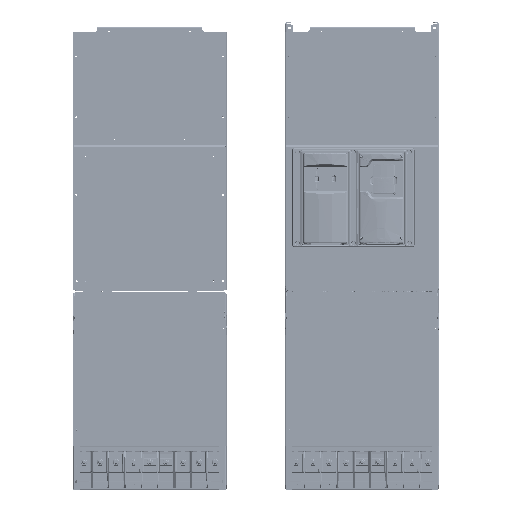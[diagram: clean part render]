
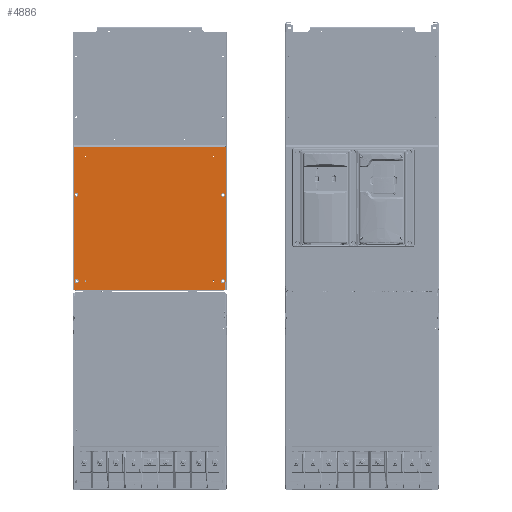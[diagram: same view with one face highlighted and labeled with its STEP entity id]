
A CAD part, top view. The second image highlights one B-rep face of the part: STEP entity #4886.
In plain terms, the highlighted planar face has unit normal (0, 0, 1).
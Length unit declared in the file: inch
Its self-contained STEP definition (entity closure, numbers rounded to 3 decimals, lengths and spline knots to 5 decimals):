
#4443=CARTESIAN_POINT('',(-9.68433,-33.8614,18.14312));
#4444=VERTEX_POINT('',#4443);
#4451=CARTESIAN_POINT('',(-9.76307,-33.78266,18.14312));
#4452=VERTEX_POINT('',#4451);
#4453=CARTESIAN_POINT('',(-9.68433,-33.8614,18.14312));
#4454=DIRECTION('',(-0.707,0.707,0.0));
#4455=VECTOR('',#4454,0.11136);
#4456=LINE('',#4453,#4455);
#4457=EDGE_CURVE('',#4444,#4452,#4456,.T.);
#4475=CARTESIAN_POINT('',(-9.76307,-16.30235,18.14312));
#4476=VERTEX_POINT('',#4475);
#4477=CARTESIAN_POINT('',(-9.76307,-16.30235,18.14312));
#4478=DIRECTION('',(0.0,-1.0,0.0));
#4479=VECTOR('',#4478,17.48031);
#4480=LINE('',#4477,#4479);
#4481=EDGE_CURVE('',#4476,#4452,#4480,.T.);
#4499=CARTESIAN_POINT('',(-9.64496,-16.18424,18.14312));
#4500=VERTEX_POINT('',#4499);
#4501=CARTESIAN_POINT('',(-9.64496,-16.30235,18.14312));
#4502=DIRECTION('',(0.0,0.0,-1.0));
#4503=DIRECTION('',(-1.0,0.,0.0));
#4504=AXIS2_PLACEMENT_3D('',#4501,#4502,#4503);
#4505=CIRCLE('',#4504,0.11811);
#4506=EDGE_CURVE('',#4476,#4500,#4505,.T.);
#4524=CARTESIAN_POINT('',(9.80385,-16.18424,18.14312));
#4525=VERTEX_POINT('',#4524);
#4526=CARTESIAN_POINT('',(9.80385,-16.18424,18.14312));
#4527=DIRECTION('',(-1.0,0.0,0.0));
#4528=VECTOR('',#4527,19.44882);
#4529=LINE('',#4526,#4528);
#4530=EDGE_CURVE('',#4525,#4500,#4529,.T.);
#4548=CARTESIAN_POINT('',(9.92196,-16.30235,18.14312));
#4549=VERTEX_POINT('',#4548);
#4550=CARTESIAN_POINT('',(9.80385,-16.30235,18.14312));
#4551=DIRECTION('',(0.0,0.0,-1.0));
#4552=DIRECTION('',(0.,1.0,0.0));
#4553=AXIS2_PLACEMENT_3D('',#4550,#4551,#4552);
#4554=CIRCLE('',#4553,0.11811);
#4555=EDGE_CURVE('',#4525,#4549,#4554,.T.);
#4573=CARTESIAN_POINT('',(9.92196,-33.70392,18.14312));
#4574=VERTEX_POINT('',#4573);
#4575=CARTESIAN_POINT('',(9.92196,-33.70392,18.14312));
#4576=DIRECTION('',(0.0,1.0,0.0));
#4577=VECTOR('',#4576,17.40157);
#4578=LINE('',#4575,#4577);
#4579=EDGE_CURVE('',#4574,#4549,#4578,.T.);
#4597=CARTESIAN_POINT('',(9.84322,-33.78266,18.14312));
#4598=VERTEX_POINT('',#4597);
#4599=CARTESIAN_POINT('',(9.92196,-33.70392,18.14312));
#4600=DIRECTION('',(-0.707,-0.707,0.0));
#4601=VECTOR('',#4600,0.11136);
#4602=LINE('',#4599,#4601);
#4603=EDGE_CURVE('',#4574,#4598,#4602,.T.);
#4621=CARTESIAN_POINT('',(9.84322,-34.60944,18.14312));
#4622=VERTEX_POINT('',#4621);
#4623=CARTESIAN_POINT('',(9.84322,-34.60944,18.14312));
#4624=DIRECTION('',(0.,1.0,0.0));
#4625=VECTOR('',#4624,0.82677);
#4626=LINE('',#4623,#4625);
#4627=EDGE_CURVE('',#4622,#4598,#4626,.T.);
#4645=CARTESIAN_POINT('',(9.72511,-34.72755,18.14312));
#4646=VERTEX_POINT('',#4645);
#4647=CARTESIAN_POINT('',(9.72511,-34.60944,18.14312));
#4648=DIRECTION('',(0.0,0.0,-1.0));
#4649=DIRECTION('',(1.0,0.,0.0));
#4650=AXIS2_PLACEMENT_3D('',#4647,#4648,#4649);
#4651=CIRCLE('',#4650,0.11811);
#4652=EDGE_CURVE('',#4622,#4646,#4651,.T.);
#4670=CARTESIAN_POINT('',(-9.56622,-34.72755,18.14312));
#4671=VERTEX_POINT('',#4670);
#4672=CARTESIAN_POINT('',(-9.56622,-34.72755,18.14312));
#4673=DIRECTION('',(1.0,0.0,0.0));
#4674=VECTOR('',#4673,19.29134);
#4675=LINE('',#4672,#4674);
#4676=EDGE_CURVE('',#4671,#4646,#4675,.T.);
#4694=CARTESIAN_POINT('',(-9.68433,-34.60944,18.14312));
#4695=VERTEX_POINT('',#4694);
#4696=CARTESIAN_POINT('',(-9.56622,-34.60944,18.14312));
#4697=DIRECTION('',(0.0,0.0,-1.0));
#4698=DIRECTION('',(0.,-1.0,0.0));
#4699=AXIS2_PLACEMENT_3D('',#4696,#4697,#4698);
#4700=CIRCLE('',#4699,0.11811);
#4701=EDGE_CURVE('',#4671,#4695,#4700,.T.);
#4719=CARTESIAN_POINT('',(-9.68433,-33.8614,18.14312));
#4720=DIRECTION('',(0.,-1.0,0.0));
#4721=VECTOR('',#4720,0.74803);
#4722=LINE('',#4719,#4721);
#4723=EDGE_CURVE('',#4444,#4695,#4722,.T.);
#4729=CARTESIAN_POINT('',(-9.76307,-34.72755,18.14312));
#4730=DIRECTION('',(0.0,0.0,1.0));
#4731=DIRECTION('',(1.0,0.0,0.0));
#4732=AXIS2_PLACEMENT_3D('',#4729,#4730,#4731);
#4733=PLANE('',#4732);
#4734=ORIENTED_EDGE('',*,*,#4530,.T.);
#4735=ORIENTED_EDGE('',*,*,#4506,.F.);
#4736=ORIENTED_EDGE('',*,*,#4481,.T.);
#4737=ORIENTED_EDGE('',*,*,#4457,.F.);
#4738=ORIENTED_EDGE('',*,*,#4723,.T.);
#4739=ORIENTED_EDGE('',*,*,#4701,.F.);
#4740=ORIENTED_EDGE('',*,*,#4676,.T.);
#4741=ORIENTED_EDGE('',*,*,#4652,.F.);
#4742=ORIENTED_EDGE('',*,*,#4627,.T.);
#4743=ORIENTED_EDGE('',*,*,#4603,.F.);
#4744=ORIENTED_EDGE('',*,*,#4579,.T.);
#4745=ORIENTED_EDGE('',*,*,#4555,.F.);
#4746=EDGE_LOOP('',(#4734,#4735,#4736,#4737,#4738,#4739,#4740,#4741,#4742,#4743,#4744,#4745));
#4747=FACE_OUTER_BOUND('',#4746,.T.);
#4748=CARTESIAN_POINT('',(8.42877,-17.40471,18.14312));
#4749=VERTEX_POINT('',#4748);
#4750=CARTESIAN_POINT('',(8.34019,-17.40471,18.14312));
#4751=DIRECTION('',(0.0,0.0,1.0));
#4752=DIRECTION('',(-1.0,0.0,0.0));
#4753=AXIS2_PLACEMENT_3D('',#4750,#4751,#4752);
#4754=CIRCLE('',#4753,0.08858);
#4755=EDGE_CURVE('',#4749,#4749,#4754,.T.);
#4756=ORIENTED_EDGE('',*,*,#4755,.F.);
#4757=EDGE_LOOP('',(#4756));
#4758=FACE_BOUND('',#4757,.T.);
#4759=CARTESIAN_POINT('',(8.42877,-33.54644,18.14312));
#4760=VERTEX_POINT('',#4759);
#4761=CARTESIAN_POINT('',(8.34019,-33.54644,18.14312));
#4762=DIRECTION('',(0.0,0.0,1.0));
#4763=DIRECTION('',(-1.0,0.0,0.0));
#4764=AXIS2_PLACEMENT_3D('',#4761,#4762,#4763);
#4765=CIRCLE('',#4764,0.08858);
#4766=EDGE_CURVE('',#4760,#4760,#4765,.T.);
#4767=ORIENTED_EDGE('',*,*,#4766,.F.);
#4768=EDGE_LOOP('',(#4767));
#4769=FACE_BOUND('',#4768,.T.);
#4770=CARTESIAN_POINT('',(9.80779,-22.37715,18.14312));
#4771=VERTEX_POINT('',#4770);
#4772=CARTESIAN_POINT('',(9.57157,-22.37715,18.14312));
#4773=DIRECTION('',(0.0,0.0,1.0));
#4774=DIRECTION('',(-1.0,0.0,0.0));
#4775=AXIS2_PLACEMENT_3D('',#4772,#4773,#4774);
#4776=CIRCLE('',#4775,0.23622);
#4777=EDGE_CURVE('',#4771,#4771,#4776,.T.);
#4778=ORIENTED_EDGE('',*,*,#4777,.F.);
#4779=EDGE_LOOP('',(#4778));
#4780=FACE_BOUND('',#4779,.T.);
#4781=CARTESIAN_POINT('',(-8.09969,-17.40471,18.14312));
#4782=VERTEX_POINT('',#4781);
#4783=CARTESIAN_POINT('',(-8.18827,-17.40471,18.14312));
#4784=DIRECTION('',(0.0,0.0,1.0));
#4785=DIRECTION('',(-1.0,0.0,0.0));
#4786=AXIS2_PLACEMENT_3D('',#4783,#4784,#4785);
#4787=CIRCLE('',#4786,0.08858);
#4788=EDGE_CURVE('',#4782,#4782,#4787,.T.);
#4789=ORIENTED_EDGE('',*,*,#4788,.F.);
#4790=EDGE_LOOP('',(#4789));
#4791=FACE_BOUND('',#4790,.T.);
#4792=CARTESIAN_POINT('',(-9.17646,-22.37715,18.14312));
#4793=VERTEX_POINT('',#4792);
#4794=CARTESIAN_POINT('',(-9.41268,-22.37715,18.14312));
#4795=DIRECTION('',(0.0,0.0,1.0));
#4796=DIRECTION('',(-1.0,0.0,0.0));
#4797=AXIS2_PLACEMENT_3D('',#4794,#4795,#4796);
#4798=CIRCLE('',#4797,0.23622);
#4799=EDGE_CURVE('',#4793,#4793,#4798,.T.);
#4800=ORIENTED_EDGE('',*,*,#4799,.F.);
#4801=EDGE_LOOP('',(#4800));
#4802=FACE_BOUND('',#4801,.T.);
#4803=CARTESIAN_POINT('',(-8.09969,-33.54644,18.14312));
#4804=VERTEX_POINT('',#4803);
#4805=CARTESIAN_POINT('',(-8.18827,-33.54644,18.14312));
#4806=DIRECTION('',(0.0,0.0,1.0));
#4807=DIRECTION('',(-1.0,0.0,0.0));
#4808=AXIS2_PLACEMENT_3D('',#4805,#4806,#4807);
#4809=CIRCLE('',#4808,0.08858);
#4810=EDGE_CURVE('',#4804,#4804,#4809,.T.);
#4811=ORIENTED_EDGE('',*,*,#4810,.F.);
#4812=EDGE_LOOP('',(#4811));
#4813=FACE_BOUND('',#4812,.T.);
#4814=CARTESIAN_POINT('',(-9.35363,-33.78266,18.14312));
#4815=VERTEX_POINT('',#4814);
#4816=CARTESIAN_POINT('',(-9.41268,-33.78266,18.14312));
#4817=VERTEX_POINT('',#4816);
#4818=CARTESIAN_POINT('',(-9.35363,-33.78266,18.14312));
#4819=DIRECTION('',(-1.0,0.0,0.0));
#4820=VECTOR('',#4819,0.05906);
#4821=LINE('',#4818,#4820);
#4822=EDGE_CURVE('',#4815,#4817,#4821,.T.);
#4823=ORIENTED_EDGE('',*,*,#4822,.T.);
#4824=CARTESIAN_POINT('',(-9.41268,-33.31022,18.14312));
#4825=VERTEX_POINT('',#4824);
#4826=CARTESIAN_POINT('',(-9.41268,-33.54644,18.14312));
#4827=DIRECTION('',(0.0,0.0,1.0));
#4828=DIRECTION('',(-1.0,0.0,0.0));
#4829=AXIS2_PLACEMENT_3D('',#4826,#4827,#4828);
#4830=CIRCLE('',#4829,0.23622);
#4831=EDGE_CURVE('',#4825,#4817,#4830,.T.);
#4832=ORIENTED_EDGE('',*,*,#4831,.F.);
#4833=CARTESIAN_POINT('',(-9.35363,-33.31022,18.14312));
#4834=VERTEX_POINT('',#4833);
#4835=CARTESIAN_POINT('',(-9.41268,-33.31022,18.14312));
#4836=DIRECTION('',(1.0,0.0,0.0));
#4837=VECTOR('',#4836,0.05906);
#4838=LINE('',#4835,#4837);
#4839=EDGE_CURVE('',#4825,#4834,#4838,.T.);
#4840=ORIENTED_EDGE('',*,*,#4839,.T.);
#4841=CARTESIAN_POINT('',(-9.35363,-33.54644,18.14312));
#4842=DIRECTION('',(0.0,0.0,1.0));
#4843=DIRECTION('',(1.0,0.0,0.0));
#4844=AXIS2_PLACEMENT_3D('',#4841,#4842,#4843);
#4845=CIRCLE('',#4844,0.23622);
#4846=EDGE_CURVE('',#4815,#4834,#4845,.T.);
#4847=ORIENTED_EDGE('',*,*,#4846,.F.);
#4848=EDGE_LOOP('',(#4823,#4832,#4840,#4847));
#4849=FACE_BOUND('',#4848,.T.);
#4850=CARTESIAN_POINT('',(9.51252,-33.31022,18.14312));
#4851=VERTEX_POINT('',#4850);
#4852=CARTESIAN_POINT('',(9.51252,-33.78266,18.14312));
#4853=VERTEX_POINT('',#4852);
#4854=CARTESIAN_POINT('',(9.51252,-33.54644,18.14312));
#4855=DIRECTION('',(0.0,0.0,1.0));
#4856=DIRECTION('',(-1.0,0.0,0.0));
#4857=AXIS2_PLACEMENT_3D('',#4854,#4855,#4856);
#4858=CIRCLE('',#4857,0.23622);
#4859=EDGE_CURVE('',#4851,#4853,#4858,.T.);
#4860=ORIENTED_EDGE('',*,*,#4859,.F.);
#4861=CARTESIAN_POINT('',(9.57157,-33.31022,18.14312));
#4862=VERTEX_POINT('',#4861);
#4863=CARTESIAN_POINT('',(9.51252,-33.31022,18.14312));
#4864=DIRECTION('',(1.0,0.0,0.0));
#4865=VECTOR('',#4864,0.05906);
#4866=LINE('',#4863,#4865);
#4867=EDGE_CURVE('',#4851,#4862,#4866,.T.);
#4868=ORIENTED_EDGE('',*,*,#4867,.T.);
#4869=CARTESIAN_POINT('',(9.57157,-33.78266,18.14312));
#4870=VERTEX_POINT('',#4869);
#4871=CARTESIAN_POINT('',(9.57157,-33.54644,18.14312));
#4872=DIRECTION('',(0.0,0.0,1.0));
#4873=DIRECTION('',(1.0,0.0,0.0));
#4874=AXIS2_PLACEMENT_3D('',#4871,#4872,#4873);
#4875=CIRCLE('',#4874,0.23622);
#4876=EDGE_CURVE('',#4870,#4862,#4875,.T.);
#4877=ORIENTED_EDGE('',*,*,#4876,.F.);
#4878=CARTESIAN_POINT('',(9.57157,-33.78266,18.14312));
#4879=DIRECTION('',(-1.0,0.0,0.0));
#4880=VECTOR('',#4879,0.05906);
#4881=LINE('',#4878,#4880);
#4882=EDGE_CURVE('',#4870,#4853,#4881,.T.);
#4883=ORIENTED_EDGE('',*,*,#4882,.T.);
#4884=EDGE_LOOP('',(#4860,#4868,#4877,#4883));
#4885=FACE_BOUND('',#4884,.T.);
#4886=ADVANCED_FACE('',(#4747,#4758,#4769,#4780,#4791,#4802,#4813,#4849,#4885),#4733,.T.);
